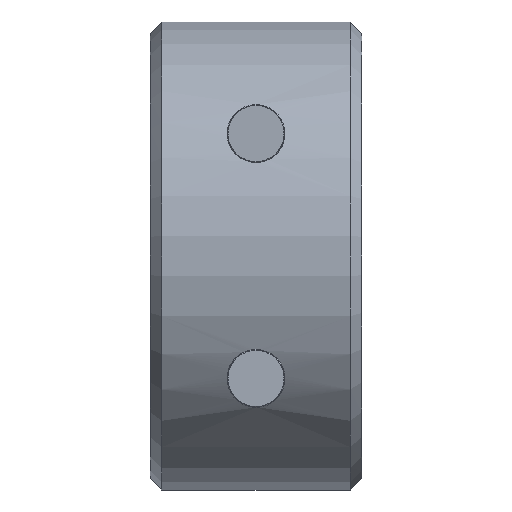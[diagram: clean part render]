
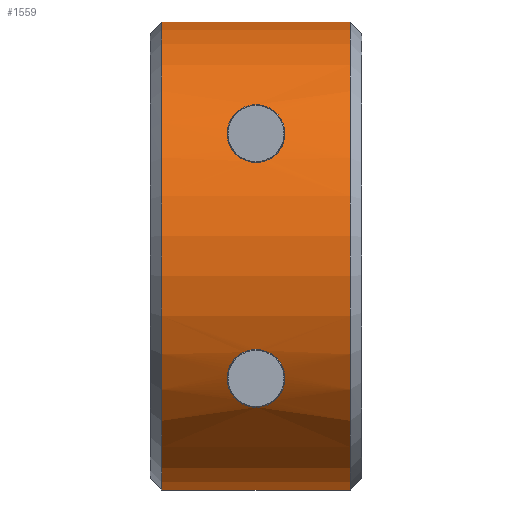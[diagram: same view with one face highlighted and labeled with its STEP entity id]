
A CAD part, front view. The second image highlights one B-rep face of the part: STEP entity #1559.
In plain terms, the highlighted cylindrical face has radius 10 mm (diameter 20 mm), a partial arc.
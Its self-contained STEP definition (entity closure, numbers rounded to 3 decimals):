
#80=LINE('',#2119,#154);
#81=LINE('',#2123,#155);
#154=VECTOR('',#1769,1000.);
#155=VECTOR('',#1772,1000.);
#228=B_SPLINE_CURVE_WITH_KNOTS('',3,(#2087,#2088,#2089,#2090,#2091,#2092,
#2093,#2094,#2095,#2096,#2097,#2098,#2099),.UNSPECIFIED.,.T.,.F.,(1,1,1,
1,1,1,1,1,1,1,1,1,1,1,1,1,1),(-0.003,-0.002,
-0.001,0.,0.001,0.002,0.003,
0.004,0.004,0.005,0.005,
0.006,0.007,0.008,0.009,
0.01,0.012),.UNSPECIFIED.);
#229=B_SPLINE_CURVE_WITH_KNOTS('',3,(#2102,#2103,#2104,#2105,#2106,#2107,
#2108,#2109,#2110,#2111,#2112,#2113,#2114),.UNSPECIFIED.,.T.,.F.,(1,1,1,
1,1,1,1,1,1,1,1,1,1,1,1,1,1),(-0.003,-0.002,
-0.001,0.,0.001,0.002,0.003,
0.004,0.004,0.005,0.005,
0.006,0.007,0.008,0.009,
0.01,0.012),.UNSPECIFIED.);
#250=ORIENTED_EDGE('',*,*,#542,.T.);
#251=ORIENTED_EDGE('',*,*,#543,.T.);
#252=ORIENTED_EDGE('',*,*,#544,.T.);
#253=ORIENTED_EDGE('',*,*,#545,.F.);
#254=ORIENTED_EDGE('',*,*,#546,.T.);
#255=ORIENTED_EDGE('',*,*,#541,.T.);
#541=EDGE_CURVE('',#687,#687,#228,.T.);
#542=EDGE_CURVE('',#688,#688,#229,.T.);
#543=EDGE_CURVE('',#689,#690,#789,.T.);
#544=EDGE_CURVE('',#690,#691,#80,.T.);
#545=EDGE_CURVE('',#692,#691,#790,.T.);
#546=EDGE_CURVE('',#692,#689,#81,.F.);
#687=VERTEX_POINT('',#2100);
#688=VERTEX_POINT('',#2115);
#689=VERTEX_POINT('',#2117);
#690=VERTEX_POINT('',#2118);
#691=VERTEX_POINT('',#2120);
#692=VERTEX_POINT('',#2122);
#789=CIRCLE('',#1638,10.);
#790=CIRCLE('',#1639,10.);
#842=EDGE_LOOP('',(#250));
#843=EDGE_LOOP('',(#251,#252,#253,#254));
#844=EDGE_LOOP('',(#255));
#940=FACE_BOUND('',#842,.T.);
#941=FACE_BOUND('',#843,.T.);
#942=FACE_BOUND('',#844,.T.);
#1039=CYLINDRICAL_SURFACE('',#1637,10.);
#1559=ADVANCED_FACE('',(#940,#941,#942),#1039,.T.);
#1637=AXIS2_PLACEMENT_3D('',#2101,#1765,#1766);
#1638=AXIS2_PLACEMENT_3D('',#2116,#1767,#1768);
#1639=AXIS2_PLACEMENT_3D('',#2121,#1770,#1771);
#1765=DIRECTION('',(1.,0.,0.));
#1766=DIRECTION('',(0.,0.,-1.));
#1767=DIRECTION('',(1.,0.,0.));
#1768=DIRECTION('',(0.,0.,-1.));
#1769=DIRECTION('',(1.,0.,0.));
#1770=DIRECTION('',(1.,0.,0.));
#1771=DIRECTION('',(0.,0.,-1.));
#1772=DIRECTION('',(1.,0.,0.));
#2087=CARTESIAN_POINT('',(-1.039,-9.04,-4.304));
#2088=CARTESIAN_POINT('',(0.,-9.247,-3.804));
#2089=CARTESIAN_POINT('',(1.038,-9.041,-4.302));
#2090=CARTESIAN_POINT('',(1.337,-8.532,-5.258));
#2091=CARTESIAN_POINT('',(1.046,-8.035,-5.965));
#2092=CARTESIAN_POINT('',(0.525,-7.726,-6.35));
#2093=CARTESIAN_POINT('',(0.002,-7.625,-6.469));
#2094=CARTESIAN_POINT('',(-0.526,-7.726,-6.35));
#2095=CARTESIAN_POINT('',(-1.046,-8.034,-5.966));
#2096=CARTESIAN_POINT('',(-1.337,-8.534,-5.254));
#2097=CARTESIAN_POINT('',(-1.039,-9.04,-4.304));
#2098=CARTESIAN_POINT('',(0.,-9.247,-3.804));
#2099=CARTESIAN_POINT('',(1.038,-9.041,-4.302));
#2100=CARTESIAN_POINT('',(0.,-9.178,-3.971));
#2101=CARTESIAN_POINT('',(4.5,0.,0.));
#2102=CARTESIAN_POINT('',(1.039,-9.04,4.304));
#2103=CARTESIAN_POINT('',(0.,-9.247,3.804));
#2104=CARTESIAN_POINT('',(-1.038,-9.041,4.302));
#2105=CARTESIAN_POINT('',(-1.337,-8.532,5.258));
#2106=CARTESIAN_POINT('',(-1.046,-8.035,5.965));
#2107=CARTESIAN_POINT('',(-0.525,-7.726,6.35));
#2108=CARTESIAN_POINT('',(-0.002,-7.625,6.469));
#2109=CARTESIAN_POINT('',(0.526,-7.726,6.35));
#2110=CARTESIAN_POINT('',(1.046,-8.034,5.966));
#2111=CARTESIAN_POINT('',(1.337,-8.534,5.254));
#2112=CARTESIAN_POINT('',(1.039,-9.04,4.304));
#2113=CARTESIAN_POINT('',(0.,-9.247,3.804));
#2114=CARTESIAN_POINT('',(-1.038,-9.041,4.302));
#2115=CARTESIAN_POINT('',(0.,-9.178,3.971));
#2116=CARTESIAN_POINT('',(-4.,0.,0.));
#2117=CARTESIAN_POINT('',(-4.,-1.05,9.945));
#2118=CARTESIAN_POINT('',(-4.,-1.05,-9.945));
#2119=CARTESIAN_POINT('',(4.5,-1.05,-9.945));
#2120=CARTESIAN_POINT('',(4.,-1.05,-9.945));
#2121=CARTESIAN_POINT('',(4.,0.,0.));
#2122=CARTESIAN_POINT('',(4.,-1.05,9.945));
#2123=CARTESIAN_POINT('',(4.5,-1.05,9.945));
